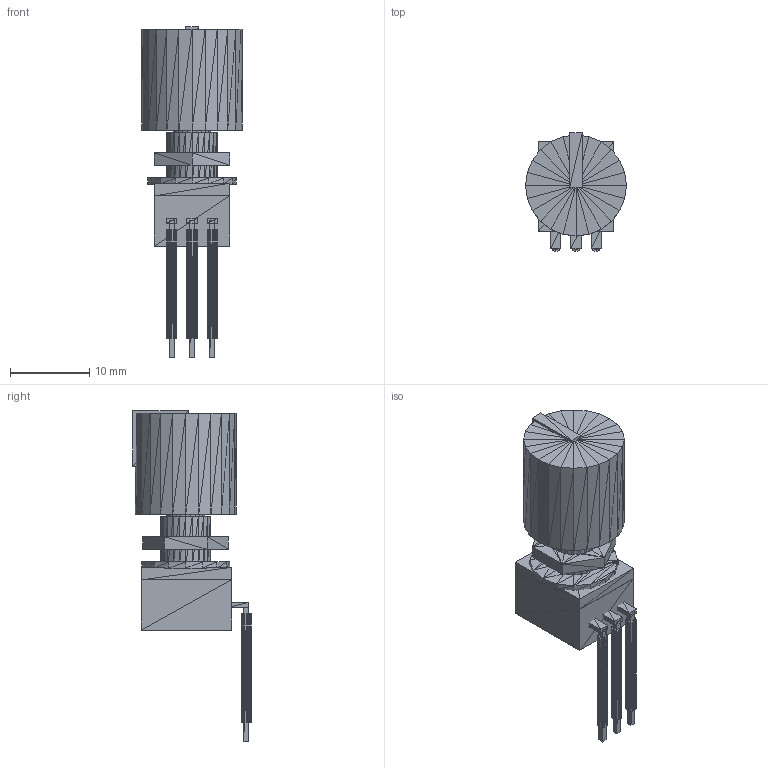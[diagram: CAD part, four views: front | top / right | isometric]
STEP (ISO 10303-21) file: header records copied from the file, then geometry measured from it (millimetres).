
FILE_DESCRIPTION(('HOOPS Exchange Step'),'2;1');
FILE_NAME('***.stp');
FILE_SCHEMA( ('AP242_MANAGED_MODEL_BASED_3D_ENGINEERING_MIM_LF {1 0 10303 442 1 1 4 }') );
Length unit declared in the file: inch
Products named in the file (18): PMTR9MM_2; PMTR9MM_3; PMTR9MM_4; PMTR9MM_5; PMTR9MM_6; PMTR9MM_7; PMTR9MM_8; PMTR9MM_9; PMTR9MM_10; PMTR9MM_11; PMTR9MM_12; PMTR9MM_13; PMTR9MM_14; PMTR9MM_15; PMTR9MM_16; PMTR9MM_17; PMTR9MM_18; PMTR9MM
Assembly tree (17 placements, depth 2):
  PMTR9MM
    PMTR9MM_2
    PMTR9MM_3
    PMTR9MM_4
    PMTR9MM_5
    PMTR9MM_6
    PMTR9MM_7
    PMTR9MM_8
    PMTR9MM_9
    PMTR9MM_10
    PMTR9MM_11
    PMTR9MM_12
    PMTR9MM_13
    PMTR9MM_14
    PMTR9MM_15
    PMTR9MM_16
    PMTR9MM_17
    PMTR9MM_18
Bounding box: 12.7 x 14.92 x 41.64 mm (x, y, z)
Volume: 3045 mm3; surface area: 2669.4 mm2
Topology: 17 solids, 17 shells, 906 faces, 1359 edges, 483 vertices
Faces by surface type: plane 906
Entity records: 18511 total; most frequent: DIRECTION 3243, CARTESIAN_POINT 2784, ORIENTED_EDGE 2718, VECTOR 1359, LINE 1359, EDGE_CURVE 1359, AXIS2_PLACEMENT_3D 942, PLANE 906
